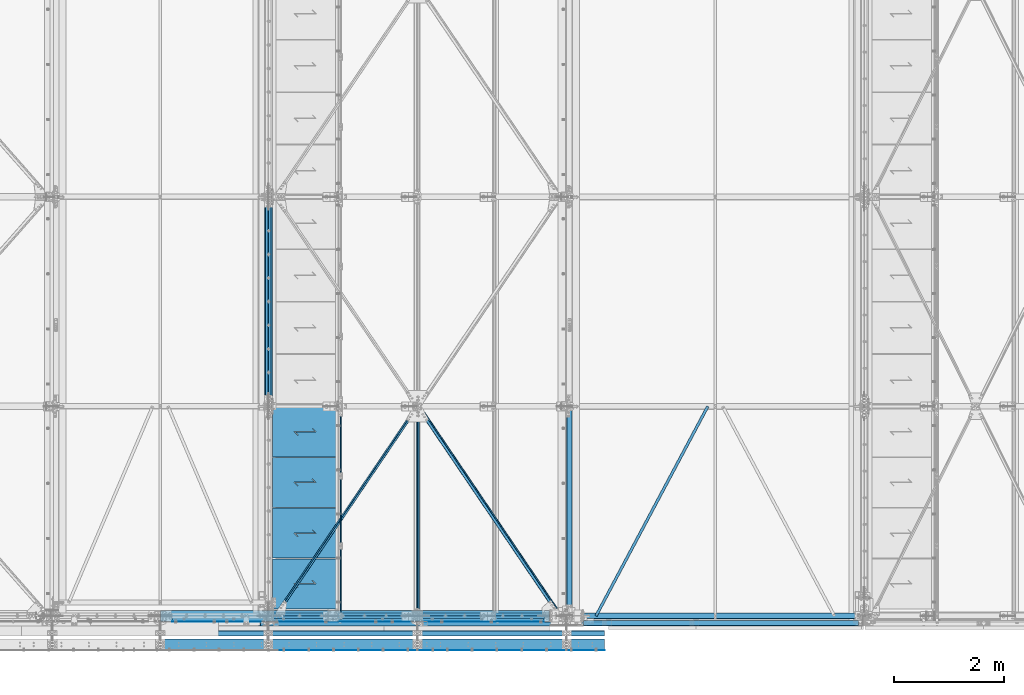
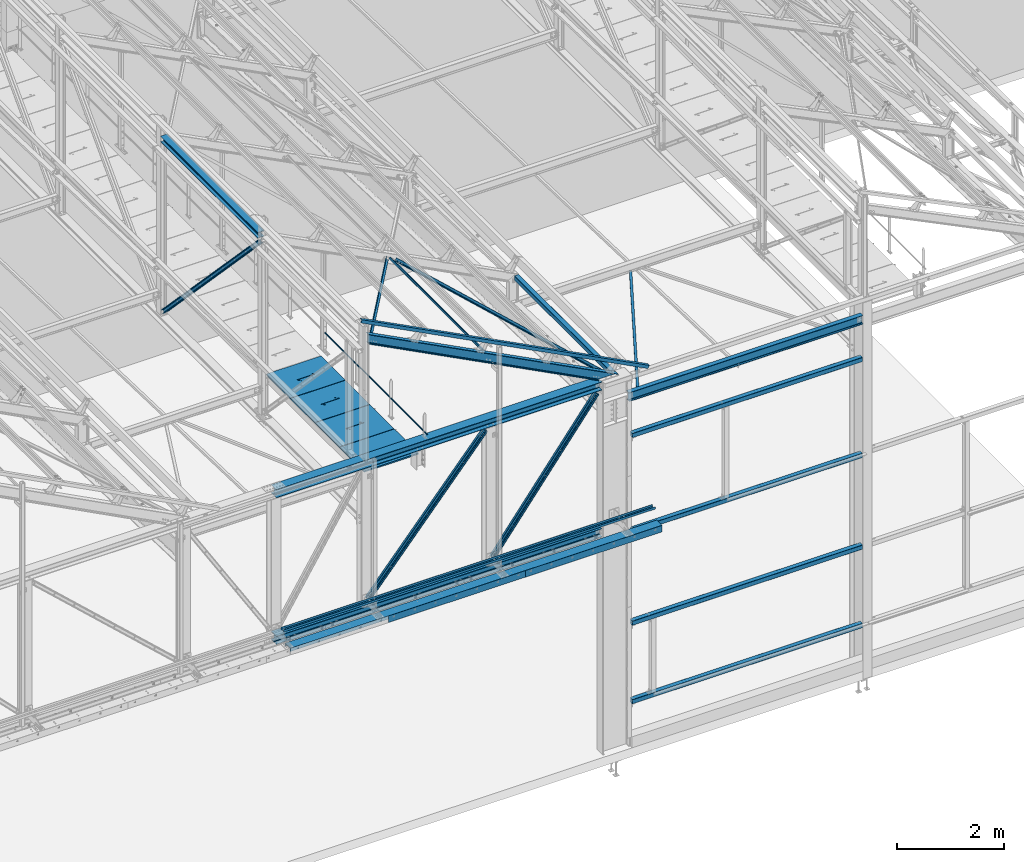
# One storey, part 48 of 362: 24 beams, 8 members, 32 elements without a shape of their own.
"""IFC2X3 building model written with IfcOpenShell, lengths in millimetres."""

import ifcopenshell
import ifcopenshell.guid

model = None  # the IFC model being written
_history = None  # IfcOwnerHistory: only IFC2X3 demands one
_inside = {}  # id of a spatial element -> (the spatial element, [elements in it])
_under = {}  # id of a project, library or spatial element -> (it, [spatial elements below it])
_declared = {}  # id of a project -> (the project, [libraries it declares])
_typed = {}  # id of a type object -> (the type object, [elements of that type])
_made_of = {}  # id of a material, layer set ... -> (it, [elements and type objects made of it])


def new_model(schema):
    """Start an empty IFC model of exactly this schema.

    Asked for "IFC4X3", IfcOpenShell would pick the latest addendum, in which some entities
    have other attributes; the version numbers below select the first issue.
    IFC2X3 requires an IfcOwnerHistory on every rooted entity: one is made here for all.
    """
    global model, _history
    if schema == "IFC4X3":
        model = ifcopenshell.file(schema_version=(4, 3, 0, 0))
    else:
        model = ifcopenshell.file(schema=schema)
    _inside.clear()
    _under.clear()
    _declared.clear()
    _typed.clear()
    _made_of.clear()
    _history = None
    if model.schema == "IFC2X3":
        org = make("IfcOrganization", Name="unknown")
        user = make(
            "IfcPersonAndOrganization",
            ThePerson=make("IfcPerson", FamilyName="unknown"),
            TheOrganization=org,
        )
        app = make(
            "IfcApplication",
            ApplicationDeveloper=org,
            Version="unknown",
            ApplicationFullName="unknown",
            ApplicationIdentifier="unknown",
        )
        _history = make(
            "IfcOwnerHistory",
            OwningUser=user,
            OwningApplication=app,
            ChangeAction="ADDED",
            CreationDate=0,
        )
    return model


def make(cls, **values):
    """One entity of the class cls with the attributes given. An attribute that is None is left unset."""
    return model.create_entity(
        cls, **{name: value for name, value in values.items() if value is not None}
    )


def rooted(cls, **values):
    """An entity with a GlobalId (a new one), such as an element, a storey or a relation."""
    return make(cls, GlobalId=ifcopenshell.guid.new(), OwnerHistory=_history, **values)


def si_unit(unit_type, name, prefix=None):
    """IfcSIUnit, for example si_unit("LENGTHUNIT", "METRE", prefix="MILLI")."""
    return make("IfcSIUnit", UnitType=unit_type, Prefix=prefix, Name=name)


def assignment(units):
    """IfcUnitAssignment: the units of a project."""
    return None if units is None else make("IfcUnitAssignment", Units=units)


def point(xyz):
    """IfcCartesianPoint."""
    return None if xyz is None else make("IfcCartesianPoint", Coordinates=xyz)


def direction(xyz):
    """IfcDirection."""
    return None if xyz is None else make("IfcDirection", DirectionRatios=xyz)


def frame(location, z_axis=None, x_axis=None):
    """IfcAxis2Placement3D, a coordinate frame: its origin and axes. An axis left out is left unset."""
    return make(
        "IfcAxis2Placement3D",
        Location=point(location),
        Axis=direction(z_axis),
        RefDirection=direction(x_axis),
    )


def frame_2d(location, x_axis=None):
    """IfcAxis2Placement2D, a coordinate frame in the plane: its origin and x axis."""
    return make(
        "IfcAxis2Placement2D", Location=point(location), RefDirection=direction(x_axis)
    )


def origin_with_axes():
    """The frame at (0, 0, 0) with the z axis (0, 0, 1) and the x axis (1, 0, 0) written out."""
    return frame((0.0, 0.0, 0.0), z_axis=(0.0, 0.0, 1.0), x_axis=(1.0, 0.0, 0.0))


def origin_2d_with_axis():
    """The frame at (0, 0) in the plane with the x axis (1, 0) written out."""
    return frame_2d((0.0, 0.0), x_axis=(1.0, 0.0))


def place(relative_to, where):
    """IfcLocalPlacement: puts the frame where relative to a parent placement (None: the world)."""
    return make(
        "IfcLocalPlacement", PlacementRelTo=relative_to, RelativePlacement=where
    )


def context(
    kind, dimensions, precision=None, world=None, true_north=None, identifier=None
):
    """IfcGeometricRepresentationContext, for example the 3D "Model" context."""
    return make(
        "IfcGeometricRepresentationContext",
        ContextIdentifier=identifier,
        ContextType=kind,
        CoordinateSpaceDimension=dimensions,
        Precision=precision,
        WorldCoordinateSystem=world,
        TrueNorth=true_north,
    )


def subcontext(parent, identifier, kind, view, scale=None):
    """IfcGeometricRepresentationSubContext, for example "Body" below "Model"."""
    return make(
        "IfcGeometricRepresentationSubContext",
        ContextIdentifier=identifier,
        ContextType=kind,
        ParentContext=parent,
        TargetScale=scale,
        TargetView=view,
    )


def project(units=None, contexts=None):
    """IfcProject with its units and contexts."""
    return rooted(
        "IfcProject",
        Name="project",
        RepresentationContexts=contexts,
        UnitsInContext=assignment(units),
    )


def spatial(cls, under=None, at=None, **own):
    """A site, building, storey or space (cls), placed at a placement, below another one or the project."""
    s = rooted(cls, ObjectPlacement=at, **own)
    if under is not None:
        _under.setdefault(under.id(), (under, []))[1].append(s)
    return s


def polyline(points):
    """IfcPolyline through the points."""
    return make("IfcPolyline", Points=[point(p) for p in points])


def profile(cls, at=None, kind="AREA", **sizes):
    """A parametric profile (cls). Its sizes go by their IFC names, for example OverallWidth=200.0."""
    return make(cls, ProfileType=kind, Position=at, **sizes)


def rectangle(**sizes):
    """IfcRectangleProfileDef."""
    return profile("IfcRectangleProfileDef", **sizes)


def hollow_rectangle(**sizes):
    """IfcRectangleHollowProfileDef."""
    return profile("IfcRectangleHollowProfileDef", **sizes)


def hollow_circle(**sizes):
    """IfcCircleHollowProfileDef."""
    return profile("IfcCircleHollowProfileDef", **sizes)


def i_section(**sizes):
    """IfcIShapeProfileDef."""
    return profile("IfcIShapeProfileDef", **sizes)


def l_section(**sizes):
    """IfcLShapeProfileDef."""
    return profile("IfcLShapeProfileDef", **sizes)


def u_section(**sizes):
    """IfcUShapeProfileDef."""
    return profile("IfcUShapeProfileDef", **sizes)


def outline(outer, holes=None, kind="AREA"):
    """IfcArbitraryClosedProfileDef: a profile drawn as a closed curve; with holes, ...WithVoids."""
    if holes is None:
        return make("IfcArbitraryClosedProfileDef", ProfileType=kind, OuterCurve=outer)
    return make(
        "IfcArbitraryProfileDefWithVoids",
        ProfileType=kind,
        OuterCurve=outer,
        InnerCurves=holes,
    )


def extrude(swept, where, along, depth):
    """IfcExtrudedAreaSolid: the profile swept, set in the frame where, extruded along a direction by depth."""
    return make(
        "IfcExtrudedAreaSolid",
        SweptArea=swept,
        Position=where,
        ExtrudedDirection=direction(along),
        Depth=depth,
    )


def boolean(op, a, b):
    """IfcBooleanResult of two solids."""
    return make("IfcBooleanResult", Operator=op, FirstOperand=a, SecondOperand=b)


def clip(a, b, op="DIFFERENCE"):
    """IfcBooleanClippingResult: the solid a cut by the half space b."""
    return make(
        "IfcBooleanClippingResult", Operator=op, FirstOperand=a, SecondOperand=b
    )


def halfspace(plane, agree):
    """IfcHalfSpaceSolid: all space on one side of the plane z = 0 of the frame plane."""
    return make(
        "IfcHalfSpaceSolid",
        BaseSurface=make("IfcPlane", Position=plane),
        AgreementFlag=agree,
    )


def shape(context_of_items, identifier, shape_type, items):
    """IfcShapeRepresentation: the items that make up one representation, for example the "Body"."""
    return make(
        "IfcShapeRepresentation",
        ContextOfItems=context_of_items,
        RepresentationIdentifier=identifier,
        RepresentationType=shape_type,
        Items=items,
    )


def material(Name=None, Category=None):
    """IfcMaterial."""
    return make("IfcMaterial", Name=Name, Category=Category)


def made_of(thing, what):
    """Note that an element or type object is made of a material, layer set ...; save() writes the relation."""
    if what is not None:
        _made_of.setdefault(what.id(), (what, []))[1].append(thing)
    return thing


def type_object(cls, material=None, **own):
    """A type object (cls), such as IfcWallType, which elements share."""
    return made_of(rooted(cls, **own), material)


def element(
    cls,
    number,
    at=None,
    inside=None,
    cuts=None,
    type_object=None,
    material=None,
    context=None,
    identifier="Body",
    shape_type=None,
    held_by="IfcProductDefinitionShape",
    body=None,
    shapes=None,
    **own,
):
    """One element of the class cls, such as IfcWall. Its Tag is "e" and its number.

    at: its placement. inside: the storey or other place that contains it. cuts: it is an
    opening in that element (IfcRelVoidsElement). A single representation is given by context,
    identifier, shape_type and body (its items); several are given by shapes. held_by: the class
    of the entity that holds the representations. save() writes the other relations.
    """
    e = rooted(cls, Tag="e%d" % number, ObjectPlacement=at, **own)
    if body is not None:
        shapes = [shape(context, identifier, shape_type, body)]
    if shapes is not None:
        e.Representation = make(held_by, Representations=shapes)
    if inside is not None:
        _inside.setdefault(inside.id(), (inside, []))[1].append(e)
    if cuts is not None:
        rooted(
            "IfcRelVoidsElement", RelatingBuildingElement=cuts, RelatedOpeningElement=e
        )
    if type_object is not None:
        _typed.setdefault(type_object.id(), (type_object, []))[1].append(e)
    return made_of(e, material)


def aggregate(whole, parts):
    """IfcRelAggregates: a whole, such as a stair, and the parts it consists of."""
    return rooted("IfcRelAggregates", RelatingObject=whole, RelatedObjects=parts)


def save(model, path):
    """Write the relations noted so far, then the file.

    IfcRelAggregates (storeys below a building ...), IfcRelContainedInSpatialStructure (elements
    in a storey), IfcRelDefinesByType, IfcRelAssociatesMaterial and IfcRelDeclares: one each for
    every whole, place, type object, material and project.
    """
    for whole, parts in _under.values():
        aggregate(whole, parts)
    for where, things in _inside.values():
        rooted(
            "IfcRelContainedInSpatialStructure",
            RelatedElements=things,
            RelatingStructure=where,
        )
    for kind, things in _typed.values():
        rooted("IfcRelDefinesByType", RelatedObjects=things, RelatingType=kind)
    for what, things in _made_of.values():
        rooted("IfcRelAssociatesMaterial", RelatedObjects=things, RelatingMaterial=what)
    for by, libraries in _declared.values():
        rooted("IfcRelDeclares", RelatingContext=by, RelatedDefinitions=libraries)
    model.write(path)


model = new_model("IFC2X3")

# Units and contexts
model_context = context("Model", 3, precision=1e-05, world=origin_with_axes())
body_context = subcontext(model_context, "Body", "Model", "MODEL_VIEW")
ifc_project = project(units=[si_unit("LENGTHUNIT", "METRE", prefix="MILLI"), si_unit("AREAUNIT", "SQUARE_METRE"), si_unit("VOLUMEUNIT", "CUBIC_METRE"), si_unit("MASSUNIT", "GRAM", prefix="KILO"), si_unit("TIMEUNIT", "SECOND"), si_unit("PLANEANGLEUNIT", "RADIAN"), si_unit("SOLIDANGLEUNIT", "STERADIAN"), si_unit("THERMODYNAMICTEMPERATUREUNIT", "DEGREE_CELSIUS"), si_unit("LUMINOUSINTENSITYUNIT", "LUMEN")], contexts=[model_context])

# Site, building, storey
site_placement = place(None, origin_with_axes())
site = spatial("IfcSite", under=ifc_project, at=site_placement, Name="Undefined", CompositionType="ELEMENT")
building_placement = place(site_placement, origin_with_axes())
building = spatial("IfcBuilding", under=site, at=building_placement, Name="Undefined", CompositionType="ELEMENT")
storey_placement = place(building_placement, origin_with_axes())
storey = spatial("IfcBuildingStorey", under=building, at=storey_placement, Name="Undefined", CompositionType="ELEMENT", Elevation=0.0)

# Assembly, beam
assembly_1_placement = place(storey_placement, origin_with_axes())
assembly_1 = element("IfcElementAssembly", 1, at=assembly_1_placement, inside=storey, AssemblyPlace="NOTDEFINED", PredefinedType="NOTDEFINED")
ifc_material_1 = material(Name="Undefined/S235-E24")
beam_type_1 = type_object("IfcBeamType", Name="L50*5", PredefinedType="NOTDEFINED")
beam_1_placement = place(assembly_1_placement, frame((29413.2405270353, -3.98847032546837, 7825.02116772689), z_axis=(0.882450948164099, -0.47017230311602, 0.0147759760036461), x_axis=(0.470404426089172, 0.882015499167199, -0.0277188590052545)))
beam_1 = element("IfcBeam", 2, at=beam_1_placement, type_object=beam_type_1, material=ifc_material_1, Name="LIERNE", ObjectType="L50*5", context=body_context, shape_type="SweptSolid", body=[
    extrude(l_section(Depth=50.0, Width=50.0, Thickness=5.0, FilletRadius=7.0, EdgeRadius=3.5, at=origin_2d_with_axis()), frame((4311.66067509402, 8.94535623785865e-13, 6.6380908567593e-14), z_axis=(-1.0, 0.0, 0.0), x_axis=(0.0, -1.0, 0.0)), (0.0, 0.0, 1.0), 4311.66),
])
aggregate(assembly_1, [beam_1])

assembly_2_placement = place(storey_placement, origin_with_axes())
assembly_2 = element("IfcElementAssembly", 3, at=assembly_2_placement, inside=storey, AssemblyPlace="NOTDEFINED", PredefinedType="NOTDEFINED")
beam_type_2 = type_object("IfcBeamType", Name="L60*6", PredefinedType="NOTDEFINED")
beam_2_placement = place(assembly_2_placement, frame((28762.7486131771, 1.81867566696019, 8583.73904157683), z_axis=(-0.706117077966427, -0.606225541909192, 0.365908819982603), x_axis=(-0.538249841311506, 0.795292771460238, 0.278920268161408)))
beam_2 = element("IfcBeam", 4, at=beam_2_placement, type_object=beam_type_2, material=ifc_material_1, Name="STABILITE CVT", ObjectType="L60*6", context=body_context, shape_type="Clipping", body=[
    clip(clip(extrude(l_section(Depth=60.0, Width=60.0, Thickness=6.0, FilletRadius=8.0, EdgeRadius=4.0, at=origin_2d_with_axis()), frame((4708.91289425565, 0.0, -3.8340266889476e-12), z_axis=(-1.0, 0.0, 0.0), x_axis=(0.0, -1.0, 0.0)), (0.0, 0.0, 1.0), 4639.71), halfspace(frame((4626.03085826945, 29.999945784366, -30.0000015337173), z_axis=(-1.0, 0.0, 0.0), x_axis=(0.0, 0.0, 1.0)), True)), halfspace(frame((152.084204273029, 29.9999207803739, 29.9999999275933), z_axis=(1.0, 0.0, 0.0), x_axis=(0.0, 0.0, -1.0)), True)),
])
aggregate(assembly_2, [beam_2])

assembly_3_placement = place(storey_placement, origin_with_axes())
assembly_3 = element("IfcElementAssembly", 5, at=assembly_3_placement, inside=storey, AssemblyPlace="NOTDEFINED", PredefinedType="NOTDEFINED")
beam_3_placement = place(assembly_3_placement, frame((26186.6844465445, 3801.81867700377, 9918.65169572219), z_axis=(0.706117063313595, -0.606225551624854, -0.365908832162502), x_axis=(-0.53824984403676, -0.795292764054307, 0.278920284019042)))
beam_3 = element("IfcBeam", 6, at=beam_3_placement, type_object=beam_type_2, material=ifc_material_1, Name="STABILITE CVT", ObjectType="L60*6", context=body_context, shape_type="Clipping", body=[
    clip(clip(extrude(l_section(Depth=60.0, Width=60.0, Thickness=6.0, FilletRadius=8.0, EdgeRadius=4.0, at=origin_2d_with_axis()), frame((4700.97218490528, -1.30478188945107e-13, 5.21912755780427e-13), z_axis=(-1.0, 0.0, 0.0), x_axis=(0.0, -1.0, 0.0)), (0.0, 0.0, 1.0), 4623.83), halfspace(frame((4626.03039444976, 29.9999208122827, 29.999999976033), z_axis=(-1.0, 0.0, 0.0), x_axis=(0.0, -1.0, 0.0)), True)), halfspace(frame((152.083740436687, 29.999946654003, -29.9999999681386), z_axis=(1.0, 0.0, 0.0), x_axis=(0.0, -1.0, 0.0)), True)),
])
aggregate(assembly_3, [beam_3])

assembly_4_placement = place(storey_placement, origin_with_axes())
assembly_4 = element("IfcElementAssembly", 7, at=assembly_4_placement, inside=storey, Name="SUPPORT", AssemblyPlace="NOTDEFINED", PredefinedType="NOTDEFINED")
beam_type_3 = type_object("IfcBeamType", Name="PL150*4", PredefinedType="NOTDEFINED")
beam_4_placement = place(assembly_4_placement, frame((23640.0000119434, -622.0, 5154.99824538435), z_axis=(0.0, 0.0, 1.0), x_axis=(1.0, 0.0, 0.0)))
beam_4 = element("IfcBeam", 8, at=beam_4_placement, type_object=beam_type_3, material=ifc_material_1, Name="SUPPORT", ObjectType="PL150*4", context=body_context, shape_type="SweptSolid", body=[
    extrude(rectangle(XDim=4.0, YDim=150.0, at=origin_2d_with_axis()), frame((2964.99999402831, 0.0, 0.0), z_axis=(-1.0, 0.0, 0.0), x_axis=(0.0, -1.0, 0.0)), (0.0, 0.0, 1.0), 2965.0),
])
aggregate(assembly_4, [beam_4])

assembly_5_placement = place(storey_placement, origin_with_axes())
assembly_5 = element("IfcElementAssembly", 9, at=assembly_5_placement, inside=storey, Name="SUPPORT", AssemblyPlace="NOTDEFINED", PredefinedType="NOTDEFINED")
beam_5_placement = place(assembly_5_placement, frame((26605.0000059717, -622.0, 5154.99824538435), z_axis=(0.0, 0.0, 1.0), x_axis=(1.0, 0.0, 0.0)))
beam_5 = element("IfcBeam", 10, at=beam_5_placement, type_object=beam_type_3, material=ifc_material_1, Name="SUPPORT", ObjectType="PL150*4", context=body_context, shape_type="SweptSolid", body=[
    extrude(rectangle(XDim=4.0, YDim=150.0, at=origin_2d_with_axis()), frame((2964.99999402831, 0.0, 0.0), z_axis=(-1.0, 0.0, 0.0), x_axis=(0.0, -1.0, 0.0)), (0.0, 0.0, 1.0), 2965.0),
])
aggregate(assembly_5, [beam_5])

assembly_6_placement = place(storey_placement, origin_with_axes())
assembly_6 = element("IfcElementAssembly", 11, at=assembly_6_placement, inside=storey, Name="SUPPORT", AssemblyPlace="NOTDEFINED", PredefinedType="NOTDEFINED")
beam_type_4 = type_object("IfcBeamType", Name="UPF-100*50*4", PredefinedType="NOTDEFINED")
beam_6_placement = place(assembly_6_placement, frame((29570.0, -320.0, 5474.99824538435), z_axis=(0.0, -1.0, 0.0), x_axis=(-1.0, 0.0, 0.0)))
beam_6 = element("IfcBeam", 12, at=beam_6_placement, type_object=beam_type_4, material=ifc_material_1, Name="SUPPORT", ObjectType="UPF-100*50*4", context=body_context, shape_type="SweptSolid", body=[
    extrude(u_section(Depth=100.0, FlangeWidth=50.0, WebThickness=4.0, FlangeThickness=4.0, at=origin_2d_with_axis()), frame((8055.00000597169, 0.0, 0.0), z_axis=(-1.0, 0.0, 0.0), x_axis=(0.0, -1.0, 0.0)), (0.0, 0.0, 1.0), 8055.0),
])
aggregate(assembly_6, [beam_6])

assembly_7_placement = place(storey_placement, origin_with_axes())
assembly_7 = element("IfcElementAssembly", 13, at=assembly_7_placement, inside=storey, Name="SUPPORT", AssemblyPlace="NOTDEFINED", PredefinedType="NOTDEFINED")
ifc_material_2 = material(Name="Undefined/S275-E28")
beam_type_5 = type_object("IfcBeamType", Name="UPN200", PredefinedType="NOTDEFINED")
beam_7_placement = place(assembly_7_placement, frame((21514.9999940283, -520.0, 5192.49824538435), z_axis=(0.0, -1.0, 0.0), x_axis=(1.0, 0.0, 0.0)))
beam_7 = element("IfcBeam", 14, at=beam_7_placement, type_object=beam_type_5, material=ifc_material_2, Name="SUPPORT", ObjectType="UPN200", context=body_context, shape_type="SweptSolid", body=[
    extrude(u_section(Depth=200.0, FlangeWidth=75.0, WebThickness=8.5, FlangeThickness=11.5, FilletRadius=11.5, EdgeRadius=6.0, FlangeSlope=0.0798299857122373, at=origin_2d_with_axis()), frame((8055.00000597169, 0.0, 0.0), z_axis=(-1.0, 0.0, 0.0), x_axis=(0.0, -1.0, 0.0)), (0.0, 0.0, 1.0), 8055.0),
])
aggregate(assembly_7, [beam_7])

assembly_8_placement = place(storey_placement, origin_with_axes())
assembly_8 = element("IfcElementAssembly", 15, at=assembly_8_placement, inside=storey, Name="SUPPORT", AssemblyPlace="NOTDEFINED", PredefinedType="NOTDEFINED")
beam_type_6 = type_object("IfcBeamType", Name="PL10*80", PredefinedType="NOTDEFINED")
beam_8_placement = place(assembly_8_placement, frame((21730.0012583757, -105.0, 5040.00085614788), z_axis=(0.0, 0.0, 1.0), x_axis=(1.0, 0.0, 0.0)))
beam_8 = element("IfcBeam", 16, at=beam_8_placement, type_object=beam_type_6, material=ifc_material_1, Name="SUPPORT", ObjectType="PL10*80", context=body_context, shape_type="SweptSolid", body=[
    extrude(rectangle(XDim=10.0, YDim=80.0, at=origin_2d_with_axis()), frame((6734.99874155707, 2.78553019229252e-21, 0.0), z_axis=(-1.0, 0.0, 0.0), x_axis=(0.0, -1.0, 0.0)), (0.0, 0.0, 1.0), 6735.0),
])
aggregate(assembly_8, [beam_8])

assembly_9_placement = place(storey_placement, origin_with_axes())
assembly_9 = element("IfcElementAssembly", 17, at=assembly_9_placement, inside=storey, Name="LISSE", AssemblyPlace="NOTDEFINED", PredefinedType="NOTDEFINED")
beam_type_7 = type_object("IfcBeamType", Name="TUBE-C-100*100*4", PredefinedType="NOTDEFINED")
beam_9_placement = place(assembly_9_placement, frame((29185.0000015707, -129.999823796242, 7150.00000003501), z_axis=(0.0, 0.0, -1.0), x_axis=(1.0, 0.0, 0.0)))
beam_9 = element("IfcBeam", 18, at=beam_9_placement, type_object=beam_type_7, material=ifc_material_1, Name="LISSE CHASSIS", ObjectType="TUBE-C-100*100*4", context=body_context, shape_type="SweptSolid", body=[
    extrude(hollow_rectangle(XDim=100.0, YDim=100.0, WallThickness=4.0, InnerFilletRadius=4.0, OuterFilletRadius=8.0, at=origin_2d_with_axis()), frame((4989.99999787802, 9.78039819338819e-22, 0.0), z_axis=(-1.0, 0.0, 0.0), x_axis=(0.0, -1.0, 0.0)), (0.0, 0.0, 1.0), 4990.0),
])
aggregate(assembly_9, [beam_9])

assembly_10_placement = place(storey_placement, origin_with_axes())
assembly_10 = element("IfcElementAssembly", 19, at=assembly_10_placement, inside=storey, Name="LISSE", AssemblyPlace="NOTDEFINED", PredefinedType="NOTDEFINED")
beam_10_placement = place(assembly_10_placement, frame((29185.0000022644, -129.999823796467, 4950.00000003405), z_axis=(0.0, 0.0, 1.0), x_axis=(1.0, 0.0, 0.0)))
beam_10 = element("IfcBeam", 20, at=beam_10_placement, type_object=beam_type_7, material=ifc_material_1, Name="LISSE CHASSIS", ObjectType="TUBE-C-100*100*4", context=body_context, shape_type="SweptSolid", body=[
    extrude(hollow_rectangle(XDim=100.0, YDim=100.0, WallThickness=4.0, InnerFilletRadius=4.0, OuterFilletRadius=8.0, at=origin_2d_with_axis()), frame((4989.99999787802, 9.78039819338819e-22, 0.0), z_axis=(-1.0, 0.0, 0.0), x_axis=(0.0, -1.0, 0.0)), (0.0, 0.0, 1.0), 4990.0),
])
aggregate(assembly_10, [beam_10])

assembly_11_placement = place(storey_placement, origin_with_axes())
assembly_11 = element("IfcElementAssembly", 21, at=assembly_11_placement, inside=storey, Name="LISSE", AssemblyPlace="NOTDEFINED", PredefinedType="NOTDEFINED")
beam_11_placement = place(assembly_11_placement, frame((29185.0000015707, -129.999823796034, 2850.00000003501), z_axis=(0.0, 0.0, -1.0), x_axis=(1.0, 0.0, 0.0)))
beam_11 = element("IfcBeam", 22, at=beam_11_placement, type_object=beam_type_7, material=ifc_material_1, Name="LISSE CHASSIS", ObjectType="TUBE-C-100*100*4", context=body_context, shape_type="SweptSolid", body=[
    extrude(hollow_rectangle(XDim=100.0, YDim=100.0, WallThickness=4.0, InnerFilletRadius=4.0, OuterFilletRadius=8.0, at=origin_2d_with_axis()), frame((4989.99999787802, 9.78039819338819e-22, 0.0), z_axis=(-1.0, 0.0, 0.0), x_axis=(0.0, -1.0, 0.0)), (0.0, 0.0, 1.0), 4990.0),
])
aggregate(assembly_11, [beam_11])

assembly_12_placement = place(storey_placement, origin_with_axes())
assembly_12 = element("IfcElementAssembly", 23, at=assembly_12_placement, inside=storey, Name="LISSE", AssemblyPlace="NOTDEFINED", PredefinedType="NOTDEFINED")
beam_12_placement = place(assembly_12_placement, frame((29185.0000022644, -129.999823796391, 1050.00000003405), z_axis=(0.0, 0.0, 1.0), x_axis=(1.0, 0.0, 0.0)))
beam_12 = element("IfcBeam", 24, at=beam_12_placement, type_object=beam_type_7, material=ifc_material_1, Name="LISSE CHASSIS", ObjectType="TUBE-C-100*100*4", context=body_context, shape_type="SweptSolid", body=[
    extrude(hollow_rectangle(XDim=100.0, YDim=100.0, WallThickness=4.0, InnerFilletRadius=4.0, OuterFilletRadius=8.0, at=origin_2d_with_axis()), frame((4989.99999787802, 9.78039819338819e-22, 0.0), z_axis=(-1.0, 0.0, 0.0), x_axis=(0.0, -1.0, 0.0)), (0.0, 0.0, 1.0), 4990.0),
])
aggregate(assembly_12, [beam_12])

assembly_13_placement = place(storey_placement, origin_with_axes())
assembly_13 = element("IfcElementAssembly", 25, at=assembly_13_placement, inside=storey, Name="LISSE", AssemblyPlace="NOTDEFINED", PredefinedType="NOTDEFINED")
beam_13_placement = place(assembly_13_placement, frame((28929.9999999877, 120.0, 8500.0), z_axis=(0.0, 0.0, 1.0), x_axis=(0.0, 1.0, 0.0)))
beam_13 = element("IfcBeam", 26, at=beam_13_placement, type_object=beam_type_7, material=ifc_material_1, Name="LISSE ACROTERE", ObjectType="TUBE-C-100*100*4", context=body_context, shape_type="SweptSolid", body=[
    extrude(hollow_rectangle(XDim=100.0, YDim=100.0, WallThickness=4.0, InnerFilletRadius=4.0, OuterFilletRadius=8.0, at=origin_2d_with_axis()), frame((3610.0, 0.0, 0.0), z_axis=(-1.0, 0.0, 0.0), x_axis=(0.0, -1.0, 0.0)), (0.0, 0.0, 1.0), 3610.0),
])
aggregate(assembly_13, [beam_13])

assembly_14_placement = place(storey_placement, origin_with_axes())
assembly_14 = element("IfcElementAssembly", 27, at=assembly_14_placement, inside=storey, AssemblyPlace="NOTDEFINED", PredefinedType="NOTDEFINED")
beam_type_8 = type_object("IfcBeamType", Name="TOLE30*910", PredefinedType="NOTDEFINED")
beam_14_placement = place(assembly_14_placement, frame((24726.4916105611, 1035.00017615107, 8115.0), z_axis=(0.0, 0.0, 1.0), x_axis=(-1.0, 0.0, 0.0)))
beam_14 = element("IfcBeam", 28, at=beam_14_placement, type_object=beam_type_8, material=ifc_material_1, Name="CAILLEBOTIS", ObjectType="TOLE30*910", context=body_context, shape_type="CSG", body=[
    boolean("DIFFERENCE", extrude(outline(polyline([(0.0, 0.0), (1179.99169921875, 0.0), (1179.99169921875, 910.0), (-9.39995516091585e-07, 910.0), (0.0, 0.0)])), frame((0.0, 0.0, -15.0), z_axis=(0.0, 0.0, 1.0), x_axis=(1.0, 0.0, 0.0)), (0.0, 0.0, 1.0), 30.0), extrude(outline(polyline([(0.0, 0.0), (9.99999999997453, 6.91215973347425e-11), (10.0000000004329, 75.8578643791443), (282.842712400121, -196.984848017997), (282.842712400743, -96.9848480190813), (272.842712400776, -96.9848480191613), (272.842712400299, -172.842712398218), (0.0, 100.0), (0.0, 0.0)])), frame((724.285170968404, 520.710678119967, -17.5), z_axis=(0.0, 0.0, 1.0), x_axis=(-0.707106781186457, -0.707106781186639, 0.0)), (0.0, 0.0, 1.0), 35.0)),
])
aggregate(assembly_14, [beam_14])

assembly_15_placement = place(storey_placement, origin_with_axes())
assembly_15 = element("IfcElementAssembly", 29, at=assembly_15_placement, inside=storey, AssemblyPlace="NOTDEFINED", PredefinedType="NOTDEFINED")
beam_15_placement = place(assembly_15_placement, frame((24726.4916105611, 1955.00017138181, 8115.0), z_axis=(0.0, 0.0, 1.0), x_axis=(-1.0, 0.0, 0.0)))
beam_15 = element("IfcBeam", 30, at=beam_15_placement, type_object=beam_type_8, material=ifc_material_1, Name="CAILLEBOTIS", ObjectType="TOLE30*910", context=body_context, shape_type="CSG", body=[
    boolean("DIFFERENCE", extrude(outline(polyline([(0.0, 0.0), (1179.99169921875, 0.0), (1179.99169921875, 910.0), (-9.39995516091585e-07, 910.0), (0.0, 0.0)])), frame((0.0, 0.0, -15.0), z_axis=(0.0, 0.0, 1.0), x_axis=(1.0, 0.0, 0.0)), (0.0, 0.0, 1.0), 30.0), extrude(outline(polyline([(0.0, 0.0), (9.99999999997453, 6.91215973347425e-11), (10.0000000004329, 75.8578643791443), (282.842712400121, -196.984848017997), (282.842712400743, -96.9848480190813), (272.842712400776, -96.9848480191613), (272.842712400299, -172.842712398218), (0.0, 100.0), (0.0, 0.0)])), frame((724.285170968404, 520.710678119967, -17.5), z_axis=(0.0, 0.0, 1.0), x_axis=(-0.707106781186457, -0.707106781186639, 0.0)), (0.0, 0.0, 1.0), 35.0)),
])
aggregate(assembly_15, [beam_15])

assembly_16_placement = place(storey_placement, origin_with_axes())
assembly_16 = element("IfcElementAssembly", 31, at=assembly_16_placement, inside=storey, AssemblyPlace="NOTDEFINED", PredefinedType="NOTDEFINED")
beam_16_placement = place(assembly_16_placement, frame((24726.4916105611, 2875.00016661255, 8115.0), z_axis=(0.0, 0.0, 1.0), x_axis=(-1.0, 0.0, 0.0)))
beam_16 = element("IfcBeam", 32, at=beam_16_placement, type_object=beam_type_8, material=ifc_material_1, Name="CAILLEBOTIS", ObjectType="TOLE30*910", context=body_context, shape_type="CSG", body=[
    boolean("DIFFERENCE", extrude(outline(polyline([(0.0, 0.0), (1179.99169921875, 0.0), (1179.99169921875, 910.0), (-9.39995516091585e-07, 910.0), (0.0, 0.0)])), frame((0.0, 0.0, -15.0), z_axis=(0.0, 0.0, 1.0), x_axis=(1.0, 0.0, 0.0)), (0.0, 0.0, 1.0), 30.0), extrude(outline(polyline([(0.0, 0.0), (9.99999999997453, 6.91215973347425e-11), (10.0000000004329, 75.8578643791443), (282.842712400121, -196.984848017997), (282.842712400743, -96.9848480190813), (272.842712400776, -96.9848480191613), (272.842712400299, -172.842712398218), (0.0, 100.0), (0.0, 0.0)])), frame((724.285170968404, 520.710678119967, -17.5), z_axis=(0.0, 0.0, 1.0), x_axis=(-0.707106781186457, -0.707106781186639, 0.0)), (0.0, 0.0, 1.0), 35.0)),
])
aggregate(assembly_16, [beam_16])

assembly_17_placement = place(storey_placement, origin_with_axes())
assembly_17 = element("IfcElementAssembly", 33, at=assembly_17_placement, inside=storey, AssemblyPlace="NOTDEFINED", PredefinedType="NOTDEFINED")
beam_17_placement = place(assembly_17_placement, frame((24726.4916105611, 3795.00016184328, 8115.0), z_axis=(0.0, 0.0, 1.0), x_axis=(-1.0, 0.0, 0.0)))
beam_17 = element("IfcBeam", 34, at=beam_17_placement, type_object=beam_type_8, material=ifc_material_1, Name="CAILLEBOTIS", ObjectType="TOLE30*910", context=body_context, shape_type="CSG", body=[
    boolean("DIFFERENCE", extrude(outline(polyline([(0.0, 0.0), (1179.99169921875, 0.0), (1179.99169921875, 910.0), (-9.39995516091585e-07, 910.0), (0.0, 0.0)])), frame((0.0, 0.0, -15.0), z_axis=(0.0, 0.0, 1.0), x_axis=(1.0, 0.0, 0.0)), (0.0, 0.0, 1.0), 30.0), extrude(outline(polyline([(0.0, 0.0), (9.99999999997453, 6.91215973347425e-11), (10.0000000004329, 75.8578643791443), (282.842712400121, -196.984848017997), (282.842712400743, -96.9848480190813), (272.842712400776, -96.9848480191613), (272.842712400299, -172.842712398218), (0.0, 100.0), (0.0, 0.0)])), frame((724.285170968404, 520.710678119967, -17.5), z_axis=(0.0, 0.0, 1.0), x_axis=(-0.707106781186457, -0.707106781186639, 0.0)), (0.0, 0.0, 1.0), 35.0)),
])
aggregate(assembly_17, [beam_17])

assembly_18_placement = place(storey_placement, origin_with_axes())
assembly_18 = element("IfcElementAssembly", 35, at=assembly_18_placement, inside=storey, Name="SUPPORT", AssemblyPlace="NOTDEFINED", PredefinedType="NOTDEFINED")
beam_type_9 = type_object("IfcBeamType", Name="L70*7", PredefinedType="NOTDEFINED")
beam_18_placement = place(assembly_18_placement, frame((21730.0012582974, -64.998477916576, 5045.00085614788), z_axis=(0.0, 1.0, 0.0), x_axis=(1.0, 0.0, 0.0)))
beam_18 = element("IfcBeam", 36, at=beam_18_placement, type_object=beam_type_9, material=ifc_material_1, Name="SUPPORT", ObjectType="L70*7", context=body_context, shape_type="SweptSolid", body=[
    extrude(l_section(Depth=70.0, Width=70.0, Thickness=7.0, FilletRadius=9.0, EdgeRadius=4.5, at=origin_2d_with_axis()), frame((6734.99874155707, 2.78553019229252e-21, 0.0), z_axis=(-1.0, 0.0, 0.0), x_axis=(0.0, -1.0, 0.0)), (0.0, 0.0, 1.0), 6735.0),
])
aggregate(assembly_18, [beam_18])

assembly_19_placement = place(storey_placement, origin_with_axes())
assembly_19 = element("IfcElementAssembly", 37, at=assembly_19_placement, inside=storey, Name="MAIN COURANTE", AssemblyPlace="NOTDEFINED", PredefinedType="NOTDEFINED")
beam_type_10 = type_object("IfcBeamType", Name="TUBE-26.9*2", PredefinedType="NOTDEFINED")
beam_19_placement = place(assembly_19_placement, frame((24783.9916006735, 3745.00000183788, 8673.80000478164), z_axis=(0.0, 0.0, 1.0), x_axis=(0.0, -1.0, 0.0)))
beam_19 = element("IfcBeam", 38, at=beam_19_placement, type_object=beam_type_10, material=ifc_material_1, Name="LISSE", ObjectType="TUBE-26.9*2", context=body_context, shape_type="SweptSolid", body=[
    extrude(hollow_circle(Radius=13.44999981, WallThickness=2.0, at=origin_2d_with_axis()), frame((3844.99656169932, 3.84499533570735e-24, 0.0), z_axis=(-1.0, 0.0, 0.0), x_axis=(0.0, -1.0, 0.0)), (0.0, 0.0, 1.0), 3845.0),
])
aggregate(assembly_19, [beam_19])

assembly_20_placement = place(storey_placement, origin_with_axes())
assembly_20 = element("IfcElementAssembly", 39, at=assembly_20_placement, inside=storey, AssemblyPlace="NOTDEFINED", PredefinedType="NOTDEFINED")
beam_type_11 = type_object("IfcBeamType", Name="TUBE-C-40*40*4", PredefinedType="NOTDEFINED")
beam_20_placement = place(assembly_20_placement, frame((26184.2061440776, 3720.00174668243, 9908.67304621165), z_axis=(-0.887870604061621, -1.29999898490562e-08, 0.460093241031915), x_axis=(0.0, -1.0, 0.0)))
beam_20 = element("IfcBeam", 40, at=beam_20_placement, type_object=beam_type_11, material=ifc_material_1, Name="BUTON", ObjectType="TUBE-C-40*40*4", context=body_context, shape_type="SweptSolid", body=[
    extrude(hollow_rectangle(XDim=40.0, YDim=40.0, WallThickness=4.0, InnerFilletRadius=4.0, OuterFilletRadius=8.0, at=origin_2d_with_axis()), frame((3700.00159576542, -3.63797880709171e-12, -3.63797880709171e-12), z_axis=(-1.0, 0.0, 0.0), x_axis=(0.0, -1.0, 0.0)), (0.0, 0.0, 1.0), 3700.0),
])
aggregate(assembly_20, [beam_20])

assembly_21_placement = place(storey_placement, origin_with_axes())
assembly_21 = element("IfcElementAssembly", 41, at=assembly_21_placement, inside=storey, AssemblyPlace="NOTDEFINED", PredefinedType="NOTDEFINED")
beam_type_12 = type_object("IfcBeamType", Name="HEA140", PredefinedType="NOTDEFINED")
beam_21_placement = place(assembly_21_placement, frame((23473.5, 7525.0, 11302.5), z_axis=(0.0, 0.0, 1.0), x_axis=(0.0, -1.0, 0.0)))
beam_21 = element("IfcBeam", 42, at=beam_21_placement, type_object=beam_type_12, material=ifc_material_2, Name="LONGERON", ObjectType="HEA140", context=body_context, shape_type="SweptSolid", body=[
    extrude(i_section(OverallWidth=140.0, OverallDepth=133.0, WebThickness=5.5, FlangeThickness=8.5, FilletRadius=12.0, at=origin_2d_with_axis()), frame((3650.0, 0.0, 0.0), z_axis=(-1.0, 0.0, 0.0), x_axis=(0.0, -1.0, 0.0)), (0.0, 0.0, 1.0), 3650.0),
])
aggregate(assembly_21, [beam_21])

assembly_22_placement = place(storey_placement, origin_with_axes())
assembly_22 = element("IfcElementAssembly", 43, at=assembly_22_placement, inside=storey, Name="TRAVERSE BASSE", AssemblyPlace="NOTDEFINED", PredefinedType="NOTDEFINED")
beam_type_13 = type_object("IfcBeamType", Name="HEA200", PredefinedType="NOTDEFINED")
beam_22_placement = place(assembly_22_placement, frame((21514.9998483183, 0.0, 5095.00174292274), z_axis=(0.0, 0.0, 1.0), x_axis=(1.0, 0.0, 0.0)))
beam_22 = element("IfcBeam", 44, at=beam_22_placement, type_object=beam_type_13, material=ifc_material_2, Name="TRAVERSE BASSE", ObjectType="HEA200", context=body_context, shape_type="SweptSolid", body=[
    extrude(i_section(OverallWidth=200.0, OverallDepth=190.0, WebThickness=6.5, FlangeThickness=10.0, FilletRadius=18.0, at=origin_2d_with_axis()), frame((7055.00017515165, 0.0, 0.0), z_axis=(-1.0, 0.0, 0.0), x_axis=(0.0, -1.0, 0.0)), (0.0, 0.0, 1.0), 7055.0),
])
aggregate(assembly_22, [beam_22])

assembly_23_placement = place(storey_placement, origin_with_axes())
assembly_23 = element("IfcElementAssembly", 45, at=assembly_23_placement, inside=storey, Name="TRAVERSE HAUTE", AssemblyPlace="NOTDEFINED", PredefinedType="NOTDEFINED")
beam_23_placement = place(assembly_23_placement, frame((28569.99997653, 0.0, 8454.99444626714), z_axis=(0.0, 0.0, -1.0), x_axis=(-1.0, 0.0, 0.0)))
beam_23 = element("IfcBeam", 46, at=beam_23_placement, type_object=beam_type_13, material=ifc_material_2, Name="TRAVERSE HAUTE", ObjectType="HEA200", context=body_context, shape_type="SweptSolid", body=[
    extrude(i_section(OverallWidth=200.0, OverallDepth=190.0, WebThickness=6.5, FlangeThickness=10.0, FilletRadius=18.0, at=origin_2d_with_axis()), frame((7055.00017515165, 0.0, 0.0), z_axis=(-1.0, 0.0, 0.0), x_axis=(0.0, -1.0, 0.0)), (0.0, 0.0, 1.0), 7055.0),
])
aggregate(assembly_23, [beam_23])

# Assembly, member
assembly_24_placement = place(storey_placement, origin_with_axes())
assembly_24 = element("IfcElementAssembly", 47, at=assembly_24_placement, inside=storey, AssemblyPlace="NOTDEFINED", PredefinedType="NOTDEFINED")
member_type_1 = type_object("IfcMemberType", Name="L70*7", PredefinedType="NOTDEFINED")
member_1_placement = place(assembly_24_placement, frame((23309.4127399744, -145.0, 11828.6296316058), z_axis=(-0.460093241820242, 0.0, -0.887870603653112), x_axis=(0.887870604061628, 0.0, -0.460093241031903)))
member_1 = element("IfcMember", 48, at=member_1_placement, type_object=member_type_1, material=ifc_material_1, Name="FEUILLURE", ObjectType="L70*7", context=body_context, shape_type="SweptSolid", body=[
    extrude(l_section(Depth=70.0, Width=70.0, Thickness=7.0, FilletRadius=9.0, EdgeRadius=4.5, at=origin_2d_with_axis()), frame((7015.00016857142, 0.0, -3.89410735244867e-13), z_axis=(-1.0, 0.0, 0.0), x_axis=(0.0, -1.0, 0.0)), (0.0, 0.0, 1.0), 7015.0),
])
aggregate(assembly_24, [member_1])

assembly_25_placement = place(storey_placement, origin_with_axes())
assembly_25 = element("IfcElementAssembly", 49, at=assembly_25_placement, inside=storey, AssemblyPlace="NOTDEFINED", PredefinedType="NOTDEFINED")
member_type_2 = type_object("IfcMemberType", Name="UPN80", PredefinedType="NOTDEFINED")
member_2_placement = place(assembly_25_placement, frame((23497.4999999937, 7599.99999999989, 7250.0), z_axis=(0.0, -0.723792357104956, -0.690017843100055), x_axis=(0.0, -0.69001779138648, 0.723792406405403)))
member_2 = element("IfcMember", 50, at=member_2_placement, type_object=member_type_2, material=ifc_material_2, Name="DIAGONALE", ObjectType="UPN80", context=body_context, shape_type="Clipping", body=[
    clip(clip(extrude(u_section(Depth=80.0, FlangeWidth=45.0, WebThickness=6.0, FlangeThickness=8.0, FilletRadius=8.0, EdgeRadius=4.0, FlangeSlope=0.0798299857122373, at=origin_2d_with_axis()), frame((5467.81196900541, 0.0, 0.0), z_axis=(-1.0, 0.0, 0.0), x_axis=(0.0, -1.0, 0.0)), (0.0, 0.0, 1.0), 5428.52), halfspace(frame((5387.10413924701, 27.4999999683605, -40.0000000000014), z_axis=(-1.0, 0.0, 0.0), x_axis=(0.0, 1.0, 0.0)), True)), halfspace(frame((119.999999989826, 27.5000000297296, 39.9999985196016), z_axis=(1.0, 0.0, 0.0), x_axis=(0.0, 1.0, 0.0)), True)),
])
aggregate(assembly_25, [member_2])

assembly_26_placement = place(storey_placement, origin_with_axes())
assembly_26 = element("IfcElementAssembly", 51, at=assembly_26_placement, inside=storey, AssemblyPlace="NOTDEFINED", PredefinedType="NOTDEFINED")
member_3_placement = place(assembly_26_placement, frame((23442.4999999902, 3800.00000035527, 11235.9999997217), z_axis=(0.0, -0.723792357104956, -0.690017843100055), x_axis=(0.0, 0.690017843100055, -0.723792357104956)))
member_3 = element("IfcMember", 52, at=member_3_placement, type_object=member_type_2, material=ifc_material_2, Name="DIAGONALE", ObjectType="UPN80", context=body_context, shape_type="Clipping", body=[
    clip(clip(extrude(u_section(Depth=80.0, FlangeWidth=45.0, WebThickness=6.0, FlangeThickness=8.0, FilletRadius=8.0, EdgeRadius=4.0, FlangeSlope=0.0798299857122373, at=origin_2d_with_axis()), frame((5467.81196900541, 0.0, 0.0), z_axis=(-1.0, 0.0, 0.0), x_axis=(0.0, -1.0, 0.0)), (0.0, 0.0, 1.0), 5428.52), halfspace(frame((5387.10413923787, 27.5000000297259, 39.9999976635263), z_axis=(-1.0, 0.0, 0.0), x_axis=(0.0, -1.0, 0.0)), True)), halfspace(frame((119.999999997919, 27.49999999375, -39.9999989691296), z_axis=(1.0, 0.0, 0.0), x_axis=(0.0, -1.0, 0.0)), True)),
])
aggregate(assembly_26, [member_3])

assembly_27_placement = place(storey_placement, origin_with_axes())
assembly_27 = element("IfcElementAssembly", 53, at=assembly_27_placement, inside=storey, AssemblyPlace="NOTDEFINED", PredefinedType="NOTDEFINED")
member_4_placement = place(assembly_27_placement, frame((23470.0000048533, 27.500000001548, 5190.00068964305), z_axis=(0.760694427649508, 0.0, -0.649110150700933), x_axis=(0.649110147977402, 0.0, 0.760694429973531)))
member_4 = element("IfcMember", 54, at=member_4_placement, type_object=member_type_2, material=ifc_material_2, Name="DIAGONALE", ObjectType="UPN80", context=body_context, shape_type="Clipping", body=[
    clip(clip(extrude(u_section(Depth=80.0, FlangeWidth=45.0, WebThickness=6.0, FlangeThickness=8.0, FilletRadius=8.0, EdgeRadius=4.0, FlangeSlope=0.0798299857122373, at=origin_2d_with_axis()), frame((4127.0370906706, 3.5527136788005e-15, 4.58193160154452e-13), z_axis=(-1.0, 0.0, 0.0), x_axis=(0.0, -1.0, 0.0)), (0.0, 0.0, 1.0), 4086.83), halfspace(frame((4047.24313549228, 27.500000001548, -39.999999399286), z_axis=(-1.0, 0.0, 0.0), x_axis=(0.0, 1.0, 0.0)), True)), halfspace(frame((119.999999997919, 27.49999999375, -39.9999989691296), z_axis=(-1.0, 0.0, 0.0), x_axis=(0.0, 1.0, 0.0)), False)),
])
aggregate(assembly_27, [member_4])

assembly_28_placement = place(storey_placement, origin_with_axes())
assembly_28 = element("IfcElementAssembly", 55, at=assembly_28_placement, inside=storey, AssemblyPlace="NOTDEFINED", PredefinedType="NOTDEFINED")
member_5_placement = place(assembly_28_placement, frame((26174.9998359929, -27.5000000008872, 8359.9993116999), z_axis=(0.760694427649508, 0.0, -0.649110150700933), x_axis=(-0.649110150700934, 0.0, -0.760694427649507)))
member_5 = element("IfcMember", 56, at=member_5_placement, type_object=member_type_2, material=ifc_material_2, Name="DIAGONALE", ObjectType="UPN80", context=body_context, shape_type="Clipping", body=[
    clip(clip(extrude(u_section(Depth=80.0, FlangeWidth=45.0, WebThickness=6.0, FlangeThickness=8.0, FilletRadius=8.0, EdgeRadius=4.0, FlangeSlope=0.0798299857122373, at=origin_2d_with_axis()), frame((4127.0370906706, 3.5527136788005e-15, 4.58193160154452e-13), z_axis=(-1.0, 0.0, 0.0), x_axis=(0.0, -1.0, 0.0)), (0.0, 0.0, 1.0), 4086.83), halfspace(frame((4047.24313549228, 27.500000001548, -39.999999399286), z_axis=(1.0, 0.0, 0.0), x_axis=(0.0, -1.0, 0.0)), False)), halfspace(frame((119.999999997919, 27.49999999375, -39.9999989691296), z_axis=(1.0, 0.0, 0.0), x_axis=(0.0, -1.0, 0.0)), True)),
])
aggregate(assembly_28, [member_5])

assembly_29_placement = place(storey_placement, origin_with_axes())
assembly_29 = element("IfcElementAssembly", 57, at=assembly_29_placement, inside=storey, AssemblyPlace="NOTDEFINED", PredefinedType="NOTDEFINED")
member_6_placement = place(assembly_29_placement, frame((26175.0000048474, 27.5000000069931, 5190.00624337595), z_axis=(0.796670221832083, 0.0, -0.604414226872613), x_axis=(0.604414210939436, 0.0, 0.796670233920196)))
member_6 = element("IfcMember", 58, at=member_6_placement, type_object=member_type_2, material=ifc_material_2, Name="DIAGONALE", ObjectType="UPN80", context=body_context, shape_type="Clipping", body=[
    clip(clip(extrude(u_section(Depth=80.0, FlangeWidth=45.0, WebThickness=6.0, FlangeThickness=8.0, FilletRadius=8.0, EdgeRadius=4.0, FlangeSlope=0.0798299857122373, at=origin_2d_with_axis()), frame((3936.86625748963, 0.0, 0.0), z_axis=(-1.0, 0.0, 0.0), x_axis=(0.0, -1.0, 0.0)), (0.0, 0.0, 1.0), 3894.68), halfspace(frame((3859.05281738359, 27.5000000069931, -40.0000022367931), z_axis=(-1.0, 0.0, 0.0), x_axis=(0.0, 1.0, 0.0)), True)), halfspace(frame((119.999999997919, 27.49999999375, -39.9999989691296), z_axis=(-1.0, 0.0, 0.0), x_axis=(0.0, 1.0, 0.0)), False)),
])
aggregate(assembly_29, [member_6])

assembly_30_placement = place(storey_placement, origin_with_axes())
assembly_30 = element("IfcElementAssembly", 59, at=assembly_30_placement, inside=storey, AssemblyPlace="NOTDEFINED", PredefinedType="NOTDEFINED")
member_7_placement = place(assembly_30_placement, frame((28579.9960922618, -27.5000000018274, 8359.99916813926), z_axis=(0.796670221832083, 0.0, -0.604414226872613), x_axis=(-0.604414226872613, 0.0, -0.796670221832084)))
member_7 = element("IfcMember", 60, at=member_7_placement, type_object=member_type_2, material=ifc_material_2, Name="DIAGONALE", ObjectType="UPN80", context=body_context, shape_type="Clipping", body=[
    clip(clip(extrude(u_section(Depth=80.0, FlangeWidth=45.0, WebThickness=6.0, FlangeThickness=8.0, FilletRadius=8.0, EdgeRadius=4.0, FlangeSlope=0.0798299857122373, at=origin_2d_with_axis()), frame((3936.86625748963, 0.0, 0.0), z_axis=(-1.0, 0.0, 0.0), x_axis=(0.0, -1.0, 0.0)), (0.0, 0.0, 1.0), 3894.68), halfspace(frame((3859.05281738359, 27.5000000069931, -40.0000022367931), z_axis=(1.0, 0.0, 0.0), x_axis=(0.0, -1.0, 0.0)), False)), halfspace(frame((119.999999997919, 27.49999999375, -39.9999989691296), z_axis=(1.0, 0.0, 0.0), x_axis=(0.0, -1.0, 0.0)), True)),
])
aggregate(assembly_30, [member_7])

assembly_31_placement = place(storey_placement, origin_with_axes())
assembly_31 = element("IfcElementAssembly", 61, at=assembly_31_placement, inside=storey, Name="TRAVERSE SHED", AssemblyPlace="NOTDEFINED", PredefinedType="NOTDEFINED")
member_type_3 = type_object("IfcMemberType", Name="IPE200", PredefinedType="NOTDEFINED")
member_8_placement = place(assembly_31_placement, frame((23493.9906758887, -3.18409305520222e-09, 11280.2129395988), z_axis=(0.460093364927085, 0.0, 0.887870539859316), x_axis=(0.887870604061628, 0.0, -0.460093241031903)))
member_8 = element("IfcMember", 62, at=member_8_placement, type_object=member_type_3, material=ifc_material_2, Name="TRAVERSE SHED", ObjectType="IPE200", context=body_context, shape_type="Clipping", body=[
    clip(clip(extrude(i_section(OverallWidth=100.0, OverallDepth=200.0, WebThickness=5.599999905, FlangeThickness=8.5, FilletRadius=12.0, at=origin_2d_with_axis()), frame((6159.55202464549, 4.13590306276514e-25, 0.0), z_axis=(-1.0, 0.0, 0.0), x_axis=(0.0, -1.0, 0.0)), (0.0, 0.0, 1.0), 6347.66), halfspace(frame((5354.83248803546, 3.18409305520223e-09, -288.88297891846), z_axis=(-0.460093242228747, -7.1029704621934e-09, 0.887870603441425), x_axis=(0.0, -1.0, 0.0)), True)), halfspace(frame((5.77115893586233, 3.18409305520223e-09, 102.990606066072), z_axis=(-0.887870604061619, 0.0, -0.46009324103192), x_axis=(0.0, -1.0, 0.0)), False)),
])
aggregate(assembly_31, [member_8])

# Assembly, beam
assembly_32_placement = place(storey_placement, origin_with_axes())
assembly_32 = element("IfcElementAssembly", 63, at=assembly_32_placement, inside=storey, AssemblyPlace="NOTDEFINED", PredefinedType="NOTDEFINED")
beam_type_14 = type_object("IfcBeamType", Name="IPE200", PredefinedType="NOTDEFINED")
beam_24_placement = place(assembly_32_placement, frame((29190.0, 2.34376784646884e-09, 7949.95250495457), z_axis=(7.58071938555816e-11, 0.0314107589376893, 0.999506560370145), x_axis=(1.0, 0.0, 0.0)))
beam_24 = element("IfcBeam", 64, at=beam_24_placement, type_object=beam_type_14, material=ifc_material_2, Name="PANNE", ObjectType="IPE200", context=body_context, shape_type="SweptSolid", body=[
    extrude(i_section(OverallWidth=100.0, OverallDepth=200.0, WebThickness=5.599999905, FlangeThickness=8.5, FilletRadius=12.0, at=origin_2d_with_axis()), frame((5074.99785576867, 0.0, 0.0), z_axis=(-1.0, 0.0, 0.0), x_axis=(0.0, -1.0, 0.0)), (0.0, 0.0, 1.0), 5075.0),
])
aggregate(assembly_32, [beam_24])

save(model, "model.ifc")
